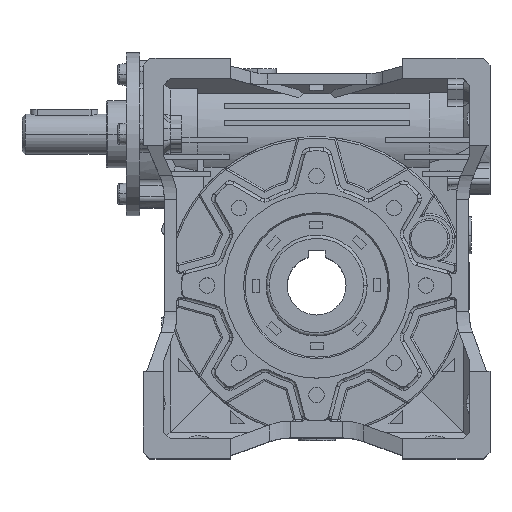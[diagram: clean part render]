
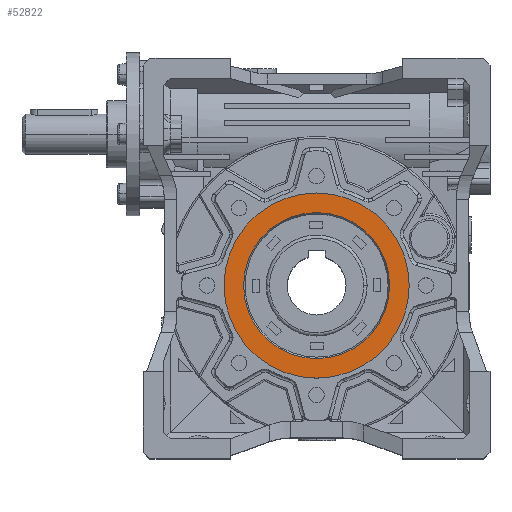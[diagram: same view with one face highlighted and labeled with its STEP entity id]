
A CAD part, top view. The second image highlights one B-rep face of the part: STEP entity #52822.
In plain terms, the highlighted planar face has unit normal (0, 0, 1).
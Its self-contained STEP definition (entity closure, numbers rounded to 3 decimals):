
#538 = DIRECTION ( 'NONE',  ( 0., 1., 0. ) ) ;
#2930 = DIRECTION ( 'NONE',  ( 1., 0., 0. ) ) ;
#3014 = EDGE_LOOP ( 'NONE', ( #32296, #52765 ) ) ;
#6931 = AXIS2_PLACEMENT_3D ( 'NONE', #17269, #28279, #2930 ) ;
#10626 = AXIS2_PLACEMENT_3D ( 'NONE', #48961, #28257, #13558 ) ;
#13136 = AXIS2_PLACEMENT_3D ( 'NONE', #30885, #56291, #538 ) ;
#13558 = DIRECTION ( 'NONE',  ( 1., 0., 0. ) ) ;
#17079 = CARTESIAN_POINT ( 'NONE',  ( 0., 0., 67.5 ) ) ;
#17269 = CARTESIAN_POINT ( 'NONE',  ( 0., 0., 67.5 ) ) ;
#19362 = EDGE_CURVE ( 'NONE', #31344, #38558, #60282, .T. ) ;
#19533 = CIRCLE ( 'NONE', #13136, 55. ) ;
#21020 = PLANE ( 'NONE',  #40730 ) ;
#22003 = FACE_BOUND ( 'NONE', #3014, .T. ) ;
#27549 = AXIS2_PLACEMENT_3D ( 'NONE', #17079, #38104, #33105 ) ;
#27760 = CARTESIAN_POINT ( 'NONE',  ( 43.366, 0., 67.5 ) ) ;
#28257 = DIRECTION ( 'NONE',  ( 0., 0., -1. ) ) ;
#28279 = DIRECTION ( 'NONE',  ( 0., 0., -1. ) ) ;
#29967 = CARTESIAN_POINT ( 'NONE',  ( 0., -55., 67.5 ) ) ;
#30885 = CARTESIAN_POINT ( 'NONE',  ( 0., 0., 67.5 ) ) ;
#31344 = VERTEX_POINT ( 'NONE', #27760 ) ;
#32296 = ORIENTED_EDGE ( 'NONE', *, *, #19362, .T. ) ;
#33105 = DIRECTION ( 'NONE',  ( 0., 1., 0. ) ) ;
#37013 = DIRECTION ( 'NONE',  ( 0., 0., 1. ) ) ;
#37128 = CARTESIAN_POINT ( 'NONE',  ( -43.366, 0., 67.5 ) ) ;
#37912 = EDGE_CURVE ( 'NONE', #42407, #57423, #19533, .T. ) ;
#38021 = EDGE_LOOP ( 'NONE', ( #57387, #50114 ) ) ;
#38104 = DIRECTION ( 'NONE',  ( 0., 0., -1. ) ) ;
#38558 = VERTEX_POINT ( 'NONE', #37128 ) ;
#40730 = AXIS2_PLACEMENT_3D ( 'NONE', #42029, #37013, #62714 ) ;
#42029 = CARTESIAN_POINT ( 'NONE',  ( 0., 0., 67.5 ) ) ;
#42407 = VERTEX_POINT ( 'NONE', #52977 ) ;
#46773 = CIRCLE ( 'NONE', #27549, 55. ) ;
#46787 = EDGE_CURVE ( 'NONE', #57423, #42407, #46773, .T. ) ;
#48961 = CARTESIAN_POINT ( 'NONE',  ( 0., 0., 67.5 ) ) ;
#50114 = ORIENTED_EDGE ( 'NONE', *, *, #46787, .F. ) ;
#52765 = ORIENTED_EDGE ( 'NONE', *, *, #57763, .T. ) ;
#52822 = ADVANCED_FACE ( 'Defeature3_770', ( #22003, #62080 ), #21020, .T. ) ;
#52977 = CARTESIAN_POINT ( 'NONE',  ( 0., 55., 67.5 ) ) ;
#56291 = DIRECTION ( 'NONE',  ( 0., 0., -1. ) ) ;
#57387 = ORIENTED_EDGE ( 'NONE', *, *, #37912, .F. ) ;
#57423 = VERTEX_POINT ( 'NONE', #29967 ) ;
#57763 = EDGE_CURVE ( 'NONE', #38558, #31344, #58595, .T. ) ;
#58595 = CIRCLE ( 'NONE', #10626, 43.366 ) ;
#60282 = CIRCLE ( 'NONE', #6931, 43.366 ) ;
#62080 = FACE_OUTER_BOUND ( 'NONE', #38021, .T. ) ;
#62714 = DIRECTION ( 'NONE',  ( 0., -1., 0. ) ) ;
